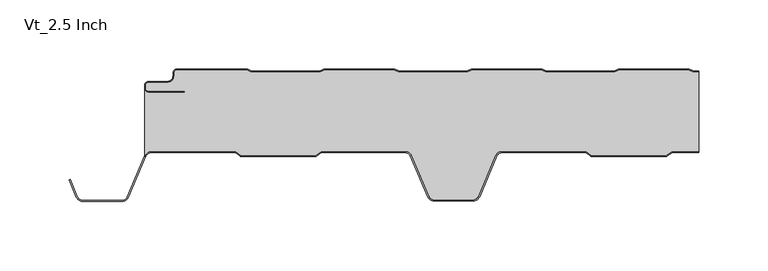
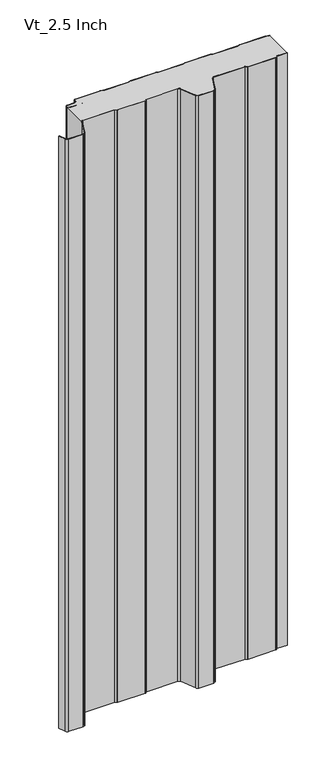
"""IFC4 building model written with IfcOpenShell, lengths in millimetres: plate geometry, AWIP_R18_CP_HR5_Vt_Roof Panel : Vt_2.5 Inch."""

import ifcopenshell
import ifcopenshell.guid

model = None  # the IFC model being written
_history = None  # IfcOwnerHistory: only IFC2X3 demands one
_inside = {}  # id of a spatial element -> (the spatial element, [elements in it])
_under = {}  # id of a project, library or spatial element -> (it, [spatial elements below it])
_declared = {}  # id of a project -> (the project, [libraries it declares])
_typed = {}  # id of a type object -> (the type object, [elements of that type])
_made_of = {}  # id of a material, layer set ... -> (it, [elements and type objects made of it])


def new_model(schema):
    """Start an empty IFC model of exactly this schema.

    Asked for "IFC4X3", IfcOpenShell would pick the latest addendum, in which some entities
    have other attributes; the version numbers below select the first issue.
    IFC2X3 requires an IfcOwnerHistory on every rooted entity: one is made here for all.
    """
    global model, _history
    if schema == "IFC4X3":
        model = ifcopenshell.file(schema_version=(4, 3, 0, 0))
    else:
        model = ifcopenshell.file(schema=schema)
    _inside.clear()
    _under.clear()
    _declared.clear()
    _typed.clear()
    _made_of.clear()
    _history = None
    if model.schema == "IFC2X3":
        org = make("IfcOrganization", Name="unknown")
        user = make(
            "IfcPersonAndOrganization",
            ThePerson=make("IfcPerson", FamilyName="unknown"),
            TheOrganization=org,
        )
        app = make(
            "IfcApplication",
            ApplicationDeveloper=org,
            Version="unknown",
            ApplicationFullName="unknown",
            ApplicationIdentifier="unknown",
        )
        _history = make(
            "IfcOwnerHistory",
            OwningUser=user,
            OwningApplication=app,
            ChangeAction="ADDED",
            CreationDate=0,
        )
    return model


def make(cls, **values):
    """One entity of the class cls with the attributes given. An attribute that is None is left unset."""
    return model.create_entity(
        cls, **{name: value for name, value in values.items() if value is not None}
    )


def rooted(cls, **values):
    """An entity with a GlobalId (a new one), such as an element, a storey or a relation."""
    return make(cls, GlobalId=ifcopenshell.guid.new(), OwnerHistory=_history, **values)


def si_unit(unit_type, name, prefix=None):
    """IfcSIUnit, for example si_unit("LENGTHUNIT", "METRE", prefix="MILLI")."""
    return make("IfcSIUnit", UnitType=unit_type, Prefix=prefix, Name=name)


def assignment(units):
    """IfcUnitAssignment: the units of a project."""
    return None if units is None else make("IfcUnitAssignment", Units=units)


def point(xyz):
    """IfcCartesianPoint."""
    return None if xyz is None else make("IfcCartesianPoint", Coordinates=xyz)


def direction(xyz):
    """IfcDirection."""
    return None if xyz is None else make("IfcDirection", DirectionRatios=xyz)


def frame(location, z_axis=None, x_axis=None):
    """IfcAxis2Placement3D, a coordinate frame: its origin and axes. An axis left out is left unset."""
    return make(
        "IfcAxis2Placement3D",
        Location=point(location),
        Axis=direction(z_axis),
        RefDirection=direction(x_axis),
    )


def frame_2d(location, x_axis=None):
    """IfcAxis2Placement2D, a coordinate frame in the plane: its origin and x axis."""
    return make(
        "IfcAxis2Placement2D", Location=point(location), RefDirection=direction(x_axis)
    )


def origin():
    """The frame at (0, 0, 0) with its axes left unset."""
    return frame((0.0, 0.0, 0.0))


def origin_with_axes():
    """The frame at (0, 0, 0) with the z axis (0, 0, 1) and the x axis (1, 0, 0) written out."""
    return frame((0.0, 0.0, 0.0), z_axis=(0.0, 0.0, 1.0), x_axis=(1.0, 0.0, 0.0))


def place(relative_to, where):
    """IfcLocalPlacement: puts the frame where relative to a parent placement (None: the world)."""
    return make(
        "IfcLocalPlacement", PlacementRelTo=relative_to, RelativePlacement=where
    )


def context(
    kind, dimensions, precision=None, world=None, true_north=None, identifier=None
):
    """IfcGeometricRepresentationContext, for example the 3D "Model" context."""
    return make(
        "IfcGeometricRepresentationContext",
        ContextIdentifier=identifier,
        ContextType=kind,
        CoordinateSpaceDimension=dimensions,
        Precision=precision,
        WorldCoordinateSystem=world,
        TrueNorth=true_north,
    )


def project(units=None, contexts=None):
    """IfcProject with its units and contexts."""
    return rooted(
        "IfcProject",
        Name="project",
        RepresentationContexts=contexts,
        UnitsInContext=assignment(units),
    )


def spatial(cls, under=None, at=None, **own):
    """A site, building, storey or space (cls), placed at a placement, below another one or the project."""
    s = rooted(cls, ObjectPlacement=at, **own)
    if under is not None:
        _under.setdefault(under.id(), (under, []))[1].append(s)
    return s


def polyline(points):
    """IfcPolyline through the points."""
    return make("IfcPolyline", Points=[point(p) for p in points])


def circle_curve(where, radius):
    """IfcCircle in the frame where."""
    return make("IfcCircle", Position=where, Radius=radius)


def trimmed(basis, trim1, trim2, sense, master):
    """IfcTrimmedCurve: the piece of a basis curve between two trims."""
    return make(
        "IfcTrimmedCurve",
        BasisCurve=basis,
        Trim1=trim1,
        Trim2=trim2,
        SenseAgreement=sense,
        MasterRepresentation=master,
    )


def segment(curve, same_sense, transition):
    """IfcCompositeCurveSegment."""
    return make(
        "IfcCompositeCurveSegment",
        Transition=transition,
        SameSense=same_sense,
        ParentCurve=curve,
    )


def composite_curve(segments, self_intersect=None):
    """IfcCompositeCurve: segments joined end to end."""
    return make("IfcCompositeCurve", Segments=segments, SelfIntersect=self_intersect)


def outline(outer, holes=None, kind="AREA"):
    """IfcArbitraryClosedProfileDef: a profile drawn as a closed curve; with holes, ...WithVoids."""
    if holes is None:
        return make("IfcArbitraryClosedProfileDef", ProfileType=kind, OuterCurve=outer)
    return make(
        "IfcArbitraryProfileDefWithVoids",
        ProfileType=kind,
        OuterCurve=outer,
        InnerCurves=holes,
    )


def extrude(swept, where, along, depth):
    """IfcExtrudedAreaSolid: the profile swept, set in the frame where, extruded along a direction by depth."""
    return make(
        "IfcExtrudedAreaSolid",
        SweptArea=swept,
        Position=where,
        ExtrudedDirection=direction(along),
        Depth=depth,
    )


def shape(context_of_items, identifier, shape_type, items):
    """IfcShapeRepresentation: the items that make up one representation, for example the "Body"."""
    return make(
        "IfcShapeRepresentation",
        ContextOfItems=context_of_items,
        RepresentationIdentifier=identifier,
        RepresentationType=shape_type,
        Items=items,
    )


def source(mapping_origin, context_of_items, identifier, shape_type, items):
    """IfcRepresentationMap: a shape defined once, which mapped items show again and again."""
    return make(
        "IfcRepresentationMap",
        MappingOrigin=mapping_origin,
        MappedRepresentation=shape(context_of_items, identifier, shape_type, items),
    )


def transform(
    local_origin,
    x_axis=None,
    y_axis=None,
    z_axis=None,
    scale=None,
    scale2=None,
    scale3=None,
    uniform=True,
):
    """IfcCartesianTransformationOperator3D, or its non-uniform kind. x_axis, y_axis, z_axis: its Axis1, 2, 3."""
    if uniform:
        return make(
            "IfcCartesianTransformationOperator3D",
            Axis1=direction(x_axis),
            Axis2=direction(y_axis),
            LocalOrigin=point(local_origin),
            Scale=scale,
            Axis3=direction(z_axis),
        )
    return make(
        "IfcCartesianTransformationOperator3DnonUniform",
        Axis1=direction(x_axis),
        Axis2=direction(y_axis),
        LocalOrigin=point(local_origin),
        Scale=scale,
        Axis3=direction(z_axis),
        Scale2=scale2,
        Scale3=scale3,
    )


def mapped(mapping_source, mapping_target):
    """IfcMappedItem: shows the shape of a source again, moved by a transform."""
    return make(
        "IfcMappedItem", MappingSource=mapping_source, MappingTarget=mapping_target
    )


def made_of(thing, what):
    """Note that an element or type object is made of a material, layer set ...; save() writes the relation."""
    if what is not None:
        _made_of.setdefault(what.id(), (what, []))[1].append(thing)
    return thing


def element(
    cls,
    number,
    at=None,
    inside=None,
    cuts=None,
    type_object=None,
    material=None,
    context=None,
    identifier="Body",
    shape_type=None,
    held_by="IfcProductDefinitionShape",
    body=None,
    shapes=None,
    **own,
):
    """One element of the class cls, such as IfcWall. Its Tag is "e" and its number.

    at: its placement. inside: the storey or other place that contains it. cuts: it is an
    opening in that element (IfcRelVoidsElement). A single representation is given by context,
    identifier, shape_type and body (its items); several are given by shapes. held_by: the class
    of the entity that holds the representations. save() writes the other relations.
    """
    e = rooted(cls, Tag="e%d" % number, ObjectPlacement=at, **own)
    if body is not None:
        shapes = [shape(context, identifier, shape_type, body)]
    if shapes is not None:
        e.Representation = make(held_by, Representations=shapes)
    if inside is not None:
        _inside.setdefault(inside.id(), (inside, []))[1].append(e)
    if cuts is not None:
        rooted(
            "IfcRelVoidsElement", RelatingBuildingElement=cuts, RelatedOpeningElement=e
        )
    if type_object is not None:
        _typed.setdefault(type_object.id(), (type_object, []))[1].append(e)
    return made_of(e, material)


def aggregate(whole, parts):
    """IfcRelAggregates: a whole, such as a stair, and the parts it consists of."""
    return rooted("IfcRelAggregates", RelatingObject=whole, RelatedObjects=parts)


def save(model, path):
    """Write the relations noted so far, then the file.

    IfcRelAggregates (storeys below a building ...), IfcRelContainedInSpatialStructure (elements
    in a storey), IfcRelDefinesByType, IfcRelAssociatesMaterial and IfcRelDeclares: one each for
    every whole, place, type object, material and project.
    """
    for whole, parts in _under.values():
        aggregate(whole, parts)
    for where, things in _inside.values():
        rooted(
            "IfcRelContainedInSpatialStructure",
            RelatedElements=things,
            RelatingStructure=where,
        )
    for kind, things in _typed.values():
        rooted("IfcRelDefinesByType", RelatedObjects=things, RelatingType=kind)
    for what, things in _made_of.values():
        rooted("IfcRelAssociatesMaterial", RelatedObjects=things, RelatingMaterial=what)
    for by, libraries in _declared.values():
        rooted("IfcRelDeclares", RelatingContext=by, RelatedDefinitions=libraries)
    model.write(path)


def vt_2_5_inch_24c7e1ae(model_context):
    return source(origin(), model_context, "Body", "SweptSolid", [
        extrude(outline(composite_curve([segment(trimmed(circle_curve(frame_2d((-90.6851335, 52.1967135)), 4.2), [point((-94.8851335, 52.1967135))], [point((-92.3261778, 56.0628451))], False, "CARTESIAN"), True, "CONTINUOUS"), segment(polyline([(-92.3261778, 56.0628451), (-62.8404017, 68.5785758)]), True, "CONTINUOUS"), segment(trimmed(circle_curve(frame_2d((-64.7158809, 72.9970122)), 4.8000002), [point((-62.8404017, 68.5785758))], [point((-59.9158807, 72.9970122))], True, "CARTESIAN"), True, "CONTINUOUS"), segment(polyline([(-59.9158807, 72.9970122), (-59.9158807, 133.8457671)]), True, "CONTINUOUS"), segment(trimmed(circle_curve(frame_2d((-61.2158807, 133.8457671)), 1.3), [point((-59.9158807, 133.8457671))], [point((-60.1621798, 134.607157))], True, "CARTESIAN"), True, "CONTINUOUS"), segment(polyline([(-60.1621798, 134.607157), (-62.7, 138.119291), (-62.7, 192.3221722), (-60.1621799, 195.8343063)]), True, "CONTINUOUS"), segment(trimmed(circle_curve(frame_2d((-61.2158814, 196.5956965)), 1.3000007), [point((-60.1621799, 195.8343063))], [point((-59.9158807, 196.5956965))], True, "CARTESIAN"), True, "CONTINUOUS"), segment(polyline([(-59.9158807, 196.5956965), (-59.9158807, 215.9042607), (-2.3, 215.9042607), (-2.3, 212.3867902)]), True, "CONTINUOUS"), segment(trimmed(circle_curve(frame_2d((1.0, 212.3867902)), 3.3), [point((-2.3, 212.3867902))], [point((-2.0293831, 211.0780359))], True, "CARTESIAN"), True, "CONTINUOUS"), segment(polyline([(-2.0293831, 211.0780359), (-0.9968123, 208.6879367)]), True, "CONTINUOUS"), segment(trimmed(circle_curve(frame_2d((-3.2, 207.7361153)), 2.4), [point((-0.9968123, 208.6879367))], [point((-0.8, 207.7361153))], False, "CARTESIAN"), True, "CONTINUOUS"), segment(polyline([(-0.8, 207.7361153), (-0.8, 158.8214702)]), True, "CONTINUOUS"), segment(trimmed(circle_curve(frame_2d((-3.2, 158.8214702)), 2.4), [point((-0.8, 158.8214702))], [point((-0.9968123, 157.8696489))], False, "CARTESIAN"), True, "CONTINUOUS"), segment(polyline([(-0.9968123, 157.8696489), (-2.0293831, 155.4795497)]), True, "CONTINUOUS"), segment(trimmed(circle_curve(frame_2d((1.0, 154.1707953)), 3.3), [point((-2.0293831, 155.4795497))], [point((-2.3, 154.1707953))], True, "CARTESIAN"), True, "CONTINUOUS"), segment(polyline([(-2.3, 154.1707953), (-2.3, 105.7867902)]), True, "CONTINUOUS"), segment(trimmed(circle_curve(frame_2d((1.0, 105.7867902)), 3.3), [point((-2.3, 105.7867902))], [point((-2.0293831, 104.4780359))], True, "CARTESIAN"), True, "CONTINUOUS"), segment(polyline([(-2.0293831, 104.4780359), (-0.9968123, 102.0879367)]), True, "CONTINUOUS"), segment(trimmed(circle_curve(frame_2d((-3.2, 101.1361153)), 2.4), [point((-0.9968123, 102.0879367))], [point((-0.8, 101.1361153))], False, "CARTESIAN"), True, "CONTINUOUS"), segment(polyline([(-0.8, 101.1361153), (-0.8, 52.2214702)]), True, "CONTINUOUS"), segment(trimmed(circle_curve(frame_2d((-3.2, 52.2214702)), 2.4), [point((-0.8, 52.2214702))], [point((-0.9968123, 51.2696489))], False, "CARTESIAN"), True, "CONTINUOUS"), segment(polyline([(-0.9968123, 51.2696489), (-2.0293831, 48.8795497)]), True, "CONTINUOUS"), segment(trimmed(circle_curve(frame_2d((1.0, 47.5707953)), 3.3), [point((-2.0293831, 48.8795497))], [point((-2.3, 47.5707953))], True, "CARTESIAN"), True, "CONTINUOUS"), segment(polyline([(-2.3, 47.5707953), (-2.3, -0.8132098)]), True, "CONTINUOUS"), segment(trimmed(circle_curve(frame_2d((1.0, -0.8132098)), 3.3), [point((-2.3, -0.8132098))], [point((-2.0293831, -2.1219641))], True, "CARTESIAN"), True, "CONTINUOUS"), segment(polyline([(-2.0293831, -2.1219641), (-0.9968123, -4.5120633)]), True, "CONTINUOUS"), segment(trimmed(circle_curve(frame_2d((-3.2, -5.4638847)), 2.4), [point((-0.9968123, -4.5120633))], [point((-0.8, -5.4638847))], False, "CARTESIAN"), True, "CONTINUOUS"), segment(polyline([(-0.8, -5.4638847), (-0.8, -54.3785298)]), True, "CONTINUOUS"), segment(trimmed(circle_curve(frame_2d((-3.2, -54.3785298)), 2.4), [point((-0.8, -54.3785298))], [point((-0.9968123, -55.3303511))], False, "CARTESIAN"), True, "CONTINUOUS"), segment(polyline([(-0.9968123, -55.3303511), (-2.0293831, -57.7204503)]), True, "CONTINUOUS"), segment(trimmed(circle_curve(frame_2d((1.0, -59.0292047)), 3.3), [point((-2.0293831, -57.7204503))], [point((-2.3, -59.0292047))], True, "CARTESIAN"), True, "CONTINUOUS"), segment(polyline([(-2.3, -59.0292047), (-2.3, -107.4132098)]), True, "CONTINUOUS"), segment(trimmed(circle_curve(frame_2d((1.0, -107.4132098)), 3.3), [point((-2.3, -107.4132098))], [point((-2.0293831, -108.7219641))], True, "CARTESIAN"), True, "CONTINUOUS"), segment(polyline([(-2.0293831, -108.7219641), (-0.9968123, -111.1120633)]), True, "CONTINUOUS"), segment(trimmed(circle_curve(frame_2d((-3.2, -112.0638847)), 2.4), [point((-0.9968123, -111.1120633))], [point((-0.8, -112.0638847))], False, "CARTESIAN"), True, "CONTINUOUS"), segment(polyline([(-0.8, -112.0638847), (-0.8, -161.8212072)]), True, "CONTINUOUS"), segment(trimmed(circle_curve(frame_2d((-3.0, -161.8212072)), 2.2), [point((-0.8, -161.8212072))], [point((-3.0, -164.0212072))], False, "CARTESIAN"), True, "CONTINUOUS"), segment(polyline([(-3.0, -164.0212072), (-5.0, -164.0212072)]), True, "CONTINUOUS"), segment(trimmed(circle_curve(frame_2d((-5.0, -168.8212072)), 4.8), [point((-5.0, -164.0212072))], [point((-9.8, -168.8212072))], True, "CARTESIAN"), True, "CONTINUOUS"), segment(polyline([(-9.8, -168.8212072), (-9.8, -182.3370174)]), True, "CONTINUOUS"), segment(trimmed(circle_curve(frame_2d((-12.0, -182.3370174)), 2.2), [point((-9.8, -182.3370174))], [point((-12.0, -184.5370174))], False, "CARTESIAN"), True, "CONTINUOUS"), segment(polyline([(-12.0, -184.5370174), (-14.0, -184.5370174)]), True, "CONTINUOUS"), segment(trimmed(circle_curve(frame_2d((-14.0, -182.3370174)), 2.2), [point((-14.0, -184.5370174))], [point((-16.2, -182.3370174))], False, "CARTESIAN"), True, "CONTINUOUS"), segment(polyline([(-16.2, -182.3370174), (-16.2, -156.3959754), (-17.0, -156.3959754), (-17.0, -182.3370174)]), True, "CONTINUOUS"), segment(trimmed(circle_curve(frame_2d((-14.0, -182.3370174)), 3.0), [point((-17.0, -182.3370174))], [point((-14.0, -185.3370174))], True, "CARTESIAN"), True, "CONTINUOUS"), segment(polyline([(-14.0, -185.3370174), (-63.520955, -185.3370174)]), True, "CONTINUOUS"), segment(trimmed(circle_curve(frame_2d((-64.7158805, -180.6881301)), 4.8), [point((-63.520955, -185.3370174))], [point((-59.9158805, -180.6881301))], True, "CARTESIAN"), True, "CONTINUOUS"), segment(polyline([(-59.9158805, -180.6881301), (-59.9158805, -119.9042132)]), True, "CONTINUOUS"), segment(trimmed(circle_curve(frame_2d((-61.2158805, -119.9042132)), 1.3), [point((-59.9158805, -119.9042132))], [point((-60.1621796, -119.1428234))], True, "CARTESIAN"), True, "CONTINUOUS"), segment(polyline([(-60.1621796, -119.1428234), (-62.7, -115.6306887), (-62.7, -61.4278085), (-60.1621797, -57.915674)]), True, "CONTINUOUS"), segment(trimmed(circle_curve(frame_2d((-61.2158805, -57.1542841)), 1.3), [point((-60.1621797, -57.915674))], [point((-59.9158805, -57.1542841))], True, "CARTESIAN"), True, "CONTINUOUS"), segment(polyline([(-59.9158805, -57.1542841), (-59.9158805, 3.6944665)]), True, "CONTINUOUS"), segment(trimmed(circle_curve(frame_2d((-64.7158806, 3.6944665)), 4.8000001), [point((-59.9158805, 3.6944665))], [point((-62.8404015, 8.1129027))], True, "CARTESIAN"), True, "CONTINUOUS"), segment(polyline([(-62.8404015, 8.1129027), (-92.3261778, 20.6286335)]), True, "CONTINUOUS"), segment(trimmed(circle_curve(frame_2d((-90.6851335, 24.4947652)), 4.2), [point((-92.3261778, 20.6286335))], [point((-94.8851335, 24.4947652))], False, "CARTESIAN"), True, "CONTINUOUS"), segment(polyline([(-94.8851335, 24.4947652), (-94.8851335, 52.1967135)]), True, "CONTINUOUS")], self_intersect=False)), frame((0.0, 0.0, 1219.2), z_axis=(0.0, 0.0, -1.0), x_axis=(0.0, 1.0, 0.0)), (0.0, 0.0, 1.0), 1219.2),
        extrude(outline(composite_curve([segment(polyline([(212.4037368, -1.5), (215.9042607, -1.5), (215.9042607, -2.3), (212.4037368, -2.3)]), True, "CONTINUOUS"), segment(trimmed(circle_curve(frame_2d((212.4037368, 1.0)), 3.3), [point((212.4037368, -2.3))], [point((211.0949824, -2.0293831))], False, "CARTESIAN"), True, "CONTINUOUS"), segment(polyline([(211.0949824, -2.0293831), (208.7048832, -0.9968123)]), True, "CONTINUOUS"), segment(trimmed(circle_curve(frame_2d((207.7530619, -3.2)), 2.4), [point((208.7048832, -0.9968123))], [point((207.7530619, -0.8))], True, "CARTESIAN"), True, "CONTINUOUS"), segment(polyline([(207.7530619, -0.8), (158.8384168, -0.8)]), True, "CONTINUOUS"), segment(trimmed(circle_curve(frame_2d((158.8384168, -3.2)), 2.4), [point((158.8384168, -0.8))], [point((157.8865954, -0.9968123))], True, "CARTESIAN"), True, "CONTINUOUS"), segment(polyline([(157.8865954, -0.9968123), (155.4964962, -2.0293831)]), True, "CONTINUOUS"), segment(trimmed(circle_curve(frame_2d((154.1877419, 1.0)), 3.3), [point((155.4964962, -2.0293831))], [point((154.1877419, -2.3))], False, "CARTESIAN"), True, "CONTINUOUS"), segment(polyline([(154.1877419, -2.3), (105.8037368, -2.3)]), True, "CONTINUOUS"), segment(trimmed(circle_curve(frame_2d((105.8037368, 1.0)), 3.3), [point((105.8037368, -2.3))], [point((104.4949824, -2.0293831))], False, "CARTESIAN"), True, "CONTINUOUS"), segment(polyline([(104.4949824, -2.0293831), (102.1048832, -0.9968123)]), True, "CONTINUOUS"), segment(trimmed(circle_curve(frame_2d((101.1530619, -3.2)), 2.4), [point((102.1048832, -0.9968123))], [point((101.1530619, -0.8))], True, "CARTESIAN"), True, "CONTINUOUS"), segment(polyline([(101.1530619, -0.8), (52.2384168, -0.8)]), True, "CONTINUOUS"), segment(trimmed(circle_curve(frame_2d((52.2384168, -3.2)), 2.4), [point((52.2384168, -0.8))], [point((51.2865954, -0.9968123))], True, "CARTESIAN"), True, "CONTINUOUS"), segment(polyline([(51.2865954, -0.9968123), (48.8964962, -2.0293831)]), True, "CONTINUOUS"), segment(trimmed(circle_curve(frame_2d((47.5877419, 1.0)), 3.3), [point((48.8964962, -2.0293831))], [point((47.5877419, -2.3))], False, "CARTESIAN"), True, "CONTINUOUS"), segment(polyline([(47.5877419, -2.3), (-0.7962632, -2.3)]), True, "CONTINUOUS"), segment(trimmed(circle_curve(frame_2d((-0.7962632, 1.0)), 3.3), [point((-0.7962632, -2.3))], [point((-2.1050176, -2.0293831))], False, "CARTESIAN"), True, "CONTINUOUS"), segment(polyline([(-2.1050176, -2.0293831), (-4.4951168, -0.9968123)]), True, "CONTINUOUS"), segment(trimmed(circle_curve(frame_2d((-5.4469381, -3.2)), 2.4), [point((-4.4951168, -0.9968123))], [point((-5.4469381, -0.8))], True, "CARTESIAN"), True, "CONTINUOUS"), segment(polyline([(-5.4469381, -0.8), (-54.3615832, -0.8)]), True, "CONTINUOUS"), segment(trimmed(circle_curve(frame_2d((-54.3615832, -3.2)), 2.4), [point((-54.3615832, -0.8))], [point((-55.3134046, -0.9968123))], True, "CARTESIAN"), True, "CONTINUOUS"), segment(polyline([(-55.3134046, -0.9968123), (-57.7035038, -2.0293831)]), True, "CONTINUOUS"), segment(trimmed(circle_curve(frame_2d((-59.0122581, 1.0)), 3.3), [point((-57.7035038, -2.0293831))], [point((-59.0122581, -2.3))], False, "CARTESIAN"), True, "CONTINUOUS"), segment(polyline([(-59.0122581, -2.3), (-107.3962632, -2.3)]), True, "CONTINUOUS"), segment(trimmed(circle_curve(frame_2d((-107.3962632, 1.0)), 3.3), [point((-107.3962632, -2.3))], [point((-108.7050176, -2.0293831))], False, "CARTESIAN"), True, "CONTINUOUS"), segment(polyline([(-108.7050176, -2.0293831), (-111.0951168, -0.9968123)]), True, "CONTINUOUS"), segment(trimmed(circle_curve(frame_2d((-112.0469381, -3.2)), 2.4), [point((-111.0951168, -0.9968123))], [point((-112.0469381, -0.8))], True, "CARTESIAN"), True, "CONTINUOUS"), segment(polyline([(-112.0469381, -0.8), (-161.8042607, -0.8)]), True, "CONTINUOUS"), segment(trimmed(circle_curve(frame_2d((-161.8042607, -3.0)), 2.2), [point((-161.8042607, -0.8))], [point((-164.0042607, -3.0))], True, "CARTESIAN"), True, "CONTINUOUS"), segment(polyline([(-164.0042607, -3.0), (-164.0042607, -5.0)]), True, "CONTINUOUS"), segment(trimmed(circle_curve(frame_2d((-168.8042607, -5.0)), 4.8), [point((-164.0042607, -5.0))], [point((-168.8042607, -9.8))], False, "CARTESIAN"), True, "CONTINUOUS"), segment(polyline([(-168.8042607, -9.8), (-182.3200708, -9.8)]), True, "CONTINUOUS"), segment(trimmed(circle_curve(frame_2d((-182.3200708, -12.0)), 2.2), [point((-182.3200708, -9.8))], [point((-184.5200708, -12.0))], True, "CARTESIAN"), True, "CONTINUOUS"), segment(polyline([(-184.5200708, -12.0), (-184.5200708, -14.0)]), True, "CONTINUOUS"), segment(trimmed(circle_curve(frame_2d((-182.3200708, -14.0)), 2.2), [point((-184.5200708, -14.0))], [point((-182.3200708, -16.2))], True, "CARTESIAN"), True, "CONTINUOUS"), segment(polyline([(-182.3200708, -16.2), (-156.3790289, -16.2), (-156.3790289, -17.0), (-182.3200708, -17.0)]), True, "CONTINUOUS"), segment(trimmed(circle_curve(frame_2d((-182.3200708, -14.0)), 3.0), [point((-182.3200708, -17.0))], [point((-185.3200708, -14.0))], False, "CARTESIAN"), True, "CONTINUOUS"), segment(polyline([(-185.3200708, -14.0), (-185.3200708, -12.0)]), True, "CONTINUOUS"), segment(trimmed(circle_curve(frame_2d((-182.3200708, -12.0)), 3.0), [point((-185.3200708, -12.0))], [point((-182.3200708, -9.0))], False, "CARTESIAN"), True, "CONTINUOUS"), segment(polyline([(-182.3200708, -9.0), (-168.8042607, -9.0)]), True, "CONTINUOUS"), segment(trimmed(circle_curve(frame_2d((-168.8042607, -5.0)), 4.0), [point((-168.8042607, -9.0))], [point((-164.8042607, -5.0))], True, "CARTESIAN"), True, "CONTINUOUS"), segment(polyline([(-164.8042607, -5.0), (-164.8042607, -3.0)]), True, "CONTINUOUS"), segment(trimmed(circle_curve(frame_2d((-161.8042607, -3.0)), 3.0), [point((-164.8042607, -3.0))], [point((-161.8042607, 0.0))], False, "CARTESIAN"), True, "CONTINUOUS"), segment(polyline([(-161.8042607, 0.0), (-112.0469381, 0.0)]), True, "CONTINUOUS"), segment(trimmed(circle_curve(frame_2d((-112.0469381, -3.2)), 3.2), [point((-112.0469381, 0.0))], [point((-110.777843, -0.2624164))], False, "CARTESIAN"), True, "CONTINUOUS"), segment(polyline([(-110.777843, -0.2624164), (-108.3877438, -1.2949872)]), True, "CONTINUOUS"), segment(trimmed(circle_curve(frame_2d((-107.3962632, 1.0)), 2.5), [point((-108.3877438, -1.2949872))], [point((-107.3962632, -1.5))], True, "CARTESIAN"), True, "CONTINUOUS"), segment(polyline([(-107.3962632, -1.5), (-59.0122581, -1.5)]), True, "CONTINUOUS"), segment(trimmed(circle_curve(frame_2d((-59.0122581, 1.0)), 2.5), [point((-59.0122581, -1.5))], [point((-58.0207775, -1.2949872))], True, "CARTESIAN"), True, "CONTINUOUS"), segment(polyline([(-58.0207775, -1.2949872), (-55.6306783, -0.2624164)]), True, "CONTINUOUS"), segment(trimmed(circle_curve(frame_2d((-54.3615832, -3.2)), 3.2), [point((-55.6306783, -0.2624164))], [point((-54.3615832, 0.0))], False, "CARTESIAN"), True, "CONTINUOUS"), segment(polyline([(-54.3615832, 0.0), (-5.4469381, 0.0)]), True, "CONTINUOUS"), segment(trimmed(circle_curve(frame_2d((-5.4469381, -3.2)), 3.2), [point((-5.4469381, 0.0))], [point((-4.177843, -0.2624164))], False, "CARTESIAN"), True, "CONTINUOUS"), segment(polyline([(-4.177843, -0.2624164), (-1.7877438, -1.2949872)]), True, "CONTINUOUS"), segment(trimmed(circle_curve(frame_2d((-0.7962632, 1.0)), 2.5), [point((-1.7877438, -1.2949872))], [point((-0.7962632, -1.5))], True, "CARTESIAN"), True, "CONTINUOUS"), segment(polyline([(-0.7962632, -1.5), (47.5877419, -1.5)]), True, "CONTINUOUS"), segment(trimmed(circle_curve(frame_2d((47.5877419, 1.0)), 2.5), [point((47.5877419, -1.5))], [point((48.5792225, -1.2949872))], True, "CARTESIAN"), True, "CONTINUOUS"), segment(polyline([(48.5792225, -1.2949872), (50.9693217, -0.2624164)]), True, "CONTINUOUS"), segment(trimmed(circle_curve(frame_2d((52.2384168, -3.2)), 3.2), [point((50.9693217, -0.2624164))], [point((52.2384168, 0.0))], False, "CARTESIAN"), True, "CONTINUOUS"), segment(polyline([(52.2384168, 0.0), (101.1530619, 0.0)]), True, "CONTINUOUS"), segment(trimmed(circle_curve(frame_2d((101.1530619, -3.2)), 3.2), [point((101.1530619, 0.0))], [point((102.422157, -0.2624164))], False, "CARTESIAN"), True, "CONTINUOUS"), segment(polyline([(102.422157, -0.2624164), (104.8122562, -1.2949872)]), True, "CONTINUOUS"), segment(trimmed(circle_curve(frame_2d((105.8037368, 1.0)), 2.5), [point((104.8122562, -1.2949872))], [point((105.8037368, -1.5))], True, "CARTESIAN"), True, "CONTINUOUS"), segment(polyline([(105.8037368, -1.5), (154.1877419, -1.5)]), True, "CONTINUOUS"), segment(trimmed(circle_curve(frame_2d((154.1877419, 1.0)), 2.5), [point((154.1877419, -1.5))], [point((155.1792225, -1.2949872))], True, "CARTESIAN"), True, "CONTINUOUS"), segment(polyline([(155.1792225, -1.2949872), (157.5693217, -0.2624164)]), True, "CONTINUOUS"), segment(trimmed(circle_curve(frame_2d((158.8384168, -3.2)), 3.2), [point((157.5693217, -0.2624164))], [point((158.8384168, 0.0))], False, "CARTESIAN"), True, "CONTINUOUS"), segment(polyline([(158.8384168, 0.0), (207.7530619, 0.0)]), True, "CONTINUOUS"), segment(trimmed(circle_curve(frame_2d((207.7530619, -3.2)), 3.2), [point((207.7530619, 0.0))], [point((209.022157, -0.2624164))], False, "CARTESIAN"), True, "CONTINUOUS"), segment(polyline([(209.022157, -0.2624164), (211.4122562, -1.2949872)]), True, "CONTINUOUS"), segment(trimmed(circle_curve(frame_2d((212.4037368, 1.0)), 2.5), [point((211.4122562, -1.2949872))], [point((212.4037368, -1.5))], True, "CARTESIAN"), True, "CONTINUOUS")], self_intersect=False)), origin_with_axes(), (0.0, 0.0, 1.0), 1219.2),
        extrude(outline(composite_curve([segment(polyline([(196.5956965, -59.9158806), (215.9042607, -59.9158806), (215.9042607, -60.7158806), (196.4339534, -60.7158806), (192.9742585, -63.2158087)]), True, "CONTINUOUS"), segment(trimmed(circle_curve(frame_2d((192.0957318, -61.9999999)), 1.5), [point((192.9742585, -63.2158087))], [point((192.0957318, -63.4999999))], False, "CARTESIAN"), True, "CONTINUOUS"), segment(polyline([(192.0957318, -63.4999999), (138.3457318, -63.5000002)]), True, "CONTINUOUS"), segment(trimmed(circle_curve(frame_2d((138.3457318, -62.0000001)), 1.5000001), [point((138.3457318, -63.5000002))], [point((137.4672049, -63.2158088))], False, "CARTESIAN"), True, "CONTINUOUS"), segment(polyline([(137.4672049, -63.2158088), (134.00751, -60.7158803), (73.3496366, -60.7158803)]), True, "CONTINUOUS"), segment(trimmed(circle_curve(frame_2d((73.3496366, -64.7158808)), 4.0000005), [point((73.3496366, -60.7158803))], [point((69.6676059, -63.1529814))], True, "CARTESIAN"), True, "CONTINUOUS"), segment(polyline([(69.6676059, -63.1529814), (57.1388245, -92.6695044)]), True, "CONTINUOUS"), segment(trimmed(circle_curve(frame_2d((52.5362869, -90.7158803)), 5.0), [point((57.1388245, -92.6695044))], [point((52.5362869, -95.7158803))], False, "CARTESIAN"), True, "CONTINUOUS"), segment(polyline([(52.5362869, -95.7158803), (24.1551918, -95.7158803)]), True, "CONTINUOUS"), segment(trimmed(circle_curve(frame_2d((24.1551918, -90.7158803)), 5.0), [point((24.1551918, -95.7158803))], [point((19.5526541, -92.6695044))], False, "CARTESIAN"), True, "CONTINUOUS"), segment(polyline([(19.5526541, -92.6695044), (7.0238723, -63.1529813)]), True, "CONTINUOUS"), segment(trimmed(circle_curve(frame_2d((3.3418421, -64.7158806)), 4.0000001), [point((7.0238723, -63.1529813))], [point((3.3418421, -60.7158805))], True, "CARTESIAN"), True, "CONTINUOUS"), segment(polyline([(3.3418421, -60.7158805), (-57.3160273, -60.7158805), (-60.7757221, -63.2158086)]), True, "CONTINUOUS"), segment(trimmed(circle_curve(frame_2d((-61.6542488, -61.9999999)), 1.5), [point((-60.7757221, -63.2158086))], [point((-61.6552202, -63.4999996))], False, "CARTESIAN"), True, "CONTINUOUS"), segment(polyline([(-61.6552202, -63.4999996), (-115.4042488, -63.4999996)]), True, "CONTINUOUS"), segment(trimmed(circle_curve(frame_2d((-115.4042488, -61.9999996)), 1.5), [point((-115.4042488, -63.4999996))], [point((-116.2827756, -63.2158083))], False, "CARTESIAN"), True, "CONTINUOUS"), segment(polyline([(-116.2827756, -63.2158083), (-119.7424699, -60.7158804), (-180.6881301, -60.7158804)]), True, "CONTINUOUS"), segment(trimmed(circle_curve(frame_2d((-180.6881301, -64.7158804)), 4.0), [point((-180.6881301, -60.7158804))], [point((-184.3701602, -63.1529811))], True, "CARTESIAN"), True, "CONTINUOUS"), segment(polyline([(-184.3701602, -63.1529811), (-197.1111755, -93.1695045)]), True, "CONTINUOUS"), segment(trimmed(circle_curve(frame_2d((-201.7137131, -91.2158804)), 5.0), [point((-197.1111755, -93.1695045))], [point((-201.7137131, -96.2158804))], False, "CARTESIAN"), True, "CONTINUOUS"), segment(polyline([(-201.7137131, -96.2158804), (-230.0948052, -96.2158804)]), True, "CONTINUOUS"), segment(trimmed(circle_curve(frame_2d((-230.0948052, -91.2158804)), 5.0), [point((-230.0948052, -96.2158804))], [point((-234.6973445, -93.1695007))], False, "CARTESIAN"), True, "CONTINUOUS"), segment(polyline([(-234.6973445, -93.1695007), (-240.046569, -80.5672483), (-239.3095274, -80.2561658), (-233.9609382, -92.8569214)]), True, "CONTINUOUS"), segment(trimmed(circle_curve(frame_2d((-230.0948052, -91.2158804)), 4.2), [point((-233.9609382, -92.8569214))], [point((-230.0948052, -95.4158804))], True, "CARTESIAN"), True, "CONTINUOUS"), segment(polyline([(-230.0948052, -95.4158804), (-201.7137131, -95.4158804)]), True, "CONTINUOUS"), segment(trimmed(circle_curve(frame_2d((-201.7137131, -91.2158804)), 4.2), [point((-201.7137131, -95.4158804))], [point((-197.8475815, -92.8569246))], True, "CARTESIAN"), True, "CONTINUOUS"), segment(polyline([(-197.8475815, -92.8569246), (-185.1065662, -62.8404013)]), True, "CONTINUOUS"), segment(trimmed(circle_curve(frame_2d((-180.6881301, -64.7158804)), 4.8), [point((-185.1065662, -62.8404013))], [point((-180.6881301, -59.9158804))], False, "CARTESIAN"), True, "CONTINUOUS"), segment(polyline([(-180.6881301, -59.9158804), (-119.9042132, -59.9158804)]), True, "CONTINUOUS"), segment(trimmed(circle_curve(frame_2d((-119.9042132, -61.2158804)), 1.3), [point((-119.9042132, -59.9158804))], [point((-119.1428234, -60.1621795))], False, "CARTESIAN"), True, "CONTINUOUS"), segment(polyline([(-119.1428234, -60.1621795), (-115.6306887, -62.6999999), (-61.4278085, -62.6999999), (-57.915674, -60.1621796)]), True, "CONTINUOUS"), segment(trimmed(circle_curve(frame_2d((-57.1542841, -61.2158805)), 1.3), [point((-57.915674, -60.1621796))], [point((-57.1542841, -59.9158805))], False, "CARTESIAN"), True, "CONTINUOUS"), segment(polyline([(-57.1542841, -59.9158805), (3.3418421, -59.9158805)]), True, "CONTINUOUS"), segment(trimmed(circle_curve(frame_2d((3.3418421, -64.7158806)), 4.8000001), [point((3.3418421, -59.9158805))], [point((7.7602783, -62.8404014))], False, "CARTESIAN"), True, "CONTINUOUS"), segment(polyline([(7.7602783, -62.8404014), (20.2890602, -92.3569246)]), True, "CONTINUOUS"), segment(trimmed(circle_curve(frame_2d((24.1551918, -90.7158803)), 4.2), [point((20.2890602, -92.3569246))], [point((24.1551918, -94.9158803))], True, "CARTESIAN"), True, "CONTINUOUS"), segment(polyline([(24.1551918, -94.9158803), (52.5362869, -94.9158803)]), True, "CONTINUOUS"), segment(trimmed(circle_curve(frame_2d((52.5362869, -90.7158803)), 4.2), [point((52.5362869, -94.9158803))], [point((56.4024185, -92.3569246))], True, "CARTESIAN"), True, "CONTINUOUS"), segment(polyline([(56.4024185, -92.3569246), (68.9312002, -62.8404017)]), True, "CONTINUOUS"), segment(trimmed(circle_curve(frame_2d((73.3496366, -64.7158808)), 4.8000002), [point((68.9312002, -62.8404017))], [point((73.3496366, -59.9158806))], False, "CARTESIAN"), True, "CONTINUOUS"), segment(polyline([(73.3496366, -59.9158806), (133.8457671, -59.9158806)]), True, "CONTINUOUS"), segment(trimmed(circle_curve(frame_2d((133.8457671, -61.2158806)), 1.3), [point((133.8457671, -59.9158806))], [point((134.607157, -60.1621798))], False, "CARTESIAN"), True, "CONTINUOUS"), segment(polyline([(134.607157, -60.1621798), (138.119291, -62.6999999), (192.3221722, -62.6999999), (195.8343063, -60.1621799)]), True, "CONTINUOUS"), segment(trimmed(circle_curve(frame_2d((196.5956965, -61.2158813)), 1.3000007), [point((195.8343063, -60.1621799))], [point((196.5956965, -59.9158806))], False, "CARTESIAN"), True, "CONTINUOUS")], self_intersect=False)), origin_with_axes(), (0.0, 0.0, 1.0), 1219.2),
    ])


if __name__ == "__main__":
    model = new_model("IFC4")
    model_context = context("Model", 3, world=origin())
    ifc_project = project(units=[si_unit("LENGTHUNIT", "METRE", prefix="MILLI")], contexts=[model_context])
    site = spatial("IfcSite", under=ifc_project)
    building = spatial("IfcBuilding", under=site)
    placement = place(None, origin())
    vt_2_5_inch_shape = vt_2_5_inch_24c7e1ae(model_context)
    element("IfcPlate", 1, ObjectType="AWIP_R18_CP_HR5_Vt_Roof Panel : Vt_2.5 Inch", at=placement, inside=building, context=model_context, shape_type="MappedRepresentation", body=[
        mapped(vt_2_5_inch_shape, transform((0.0, 0.0, 0.0), x_axis=(1.0, 0.0, 0.0), y_axis=(0.0, 1.0, 0.0), z_axis=(0.0, 0.0, 1.0))),
    ])
    save(model, "model.ifc")
